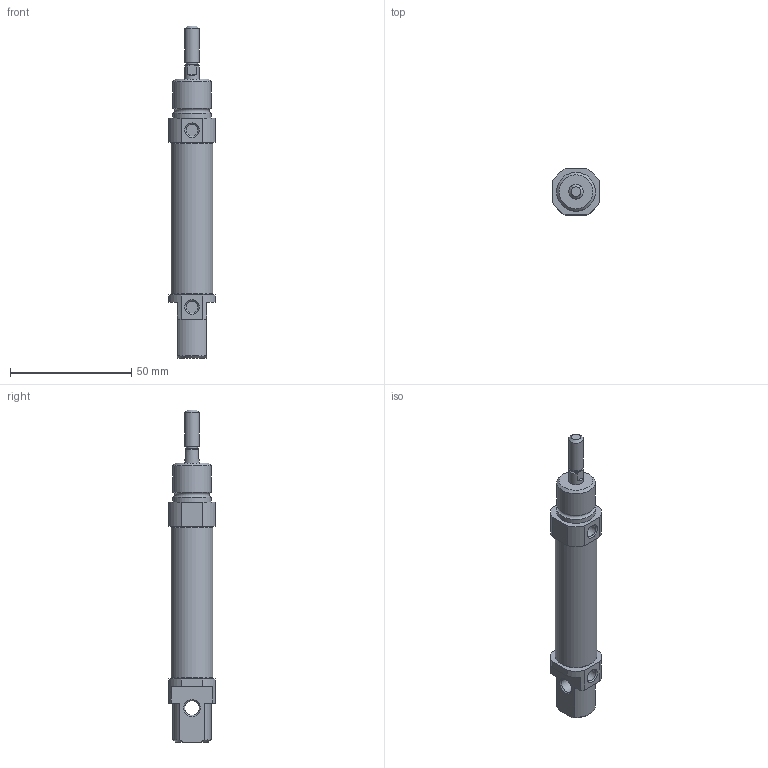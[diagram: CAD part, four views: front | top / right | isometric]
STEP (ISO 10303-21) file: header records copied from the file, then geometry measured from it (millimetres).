
FILE_DESCRIPTION((''),'2;1');
FILE_NAME('I:\3D電子目錄\氣缸\SDA\SDA16\SDA16\SDA16x25.stp','2007-08-06T10:28:50',('Administrator'),(''),'Autodesk Inventor 2008','Autodesk Inventor 2008','');
FILE_SCHEMA(('AUTOMOTIVE_DESIGN { 1 0 10303 214 1 1 1 1 }'));
Length unit declared in the file: millimetre
Products named in the file (1): SDA16X25
Bounding box: 19 x 19 x 137 mm (x, y, z)
Volume: 26172.6 mm3; surface area: 7961.4 mm2
Topology: 1 solids, 1 shells, 60 faces, 138 edges, 88 vertices
Faces by surface type: plane 26, cylinder 19, cone 12, bspline 2, torus 1
Full cylindrical faces by diameter (mm): 4.6 x1, 5 x2, 6 x3, 16 x2, 17.2 x1
Entity records: 1626 total; most frequent: CARTESIAN_POINT 289, DIRECTION 286, ORIENTED_EDGE 238, EDGE_CURVE 119, AXIS2_PLACEMENT_3D 116, EDGE_LOOP 88, VERTEX_POINT 87, FACE_OUTER_BOUND 60
